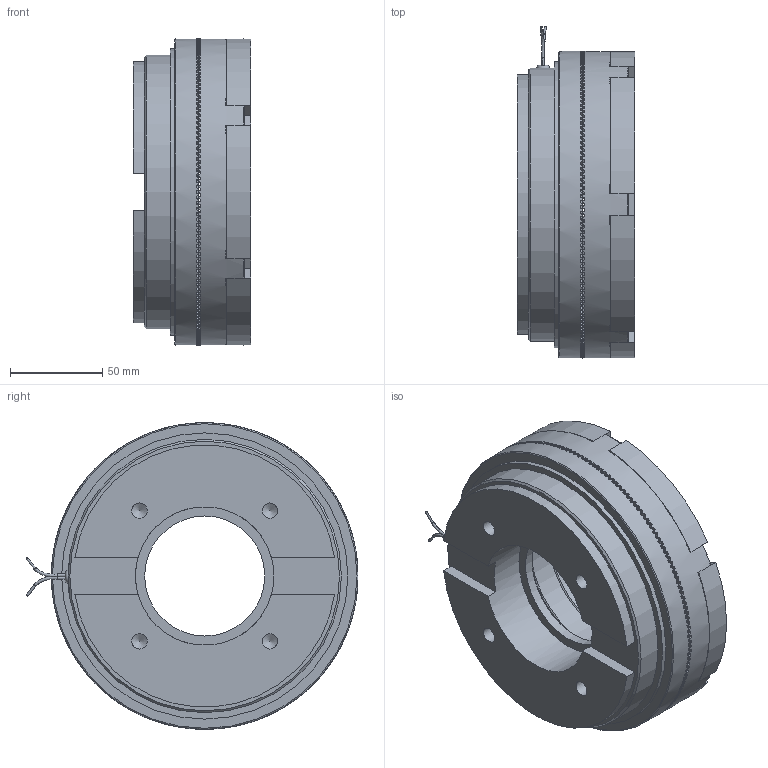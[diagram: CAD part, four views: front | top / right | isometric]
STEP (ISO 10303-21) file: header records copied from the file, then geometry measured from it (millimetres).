
FILE_DESCRIPTION(/* description */ (''),/* implementation_level */ '2;1');
FILE_NAME(/* name */ 'X:\INVENTOR\DISEGNI\07_Innesti_Elettmag_a_Dentini\07_09 EBLF_Z\07_09_166_01 EBLF166_Z\07_09_166_01 EBLF166_Z.stp',/* time_stamp */ '2023-02-13T11:08:47+01:00',/* author */ ('alessio'),/* organization */ (''),/* preprocessor_version */ 'ST-DEVELOPER v18.1',/* originating_system */ 'Autodesk Inventor 2021',/* authorisation */ '');
FILE_SCHEMA (('AUTOMOTIVE_DESIGN { 1 0 10303 214 3 1 1 }'));
Products named in the file (1): 07_09_166_01 EBLF166_Z
Bounding box: 63.5 x 179.76 x 166 mm (x, y, z)
Volume: 928370.8 mm3; surface area: 139157 mm2
Topology: 2 solids, 2 shells, 1739 faces, 5100 edges, 3375 vertices
Faces by surface type: plane 1581, cylinder 94, bspline 41, cone 21, torus 2
Full cylindrical faces by diameter (mm): 1.154 x2, 1.5 x1, 4.917 x3, 7.9 x3, 8.376 x4, 8.5 x3, 12 x3, 13 x3, 65 x1, 75 x1, 80 x3, 108 x1, 132 x1, 148 x1, 150 x1, 153 x1, 154 x1, 155 x1, 166 x2
Entity records: 65228 total; most frequent: CARTESIAN_POINT 14522, DIRECTION 11420, ORIENTED_EDGE 10196, EDGE_CURVE 5098, AXIS2_PLACEMENT_3D 4757, VERTEX_POINT 3375, ELLIPSE 2061, LINE 1906
